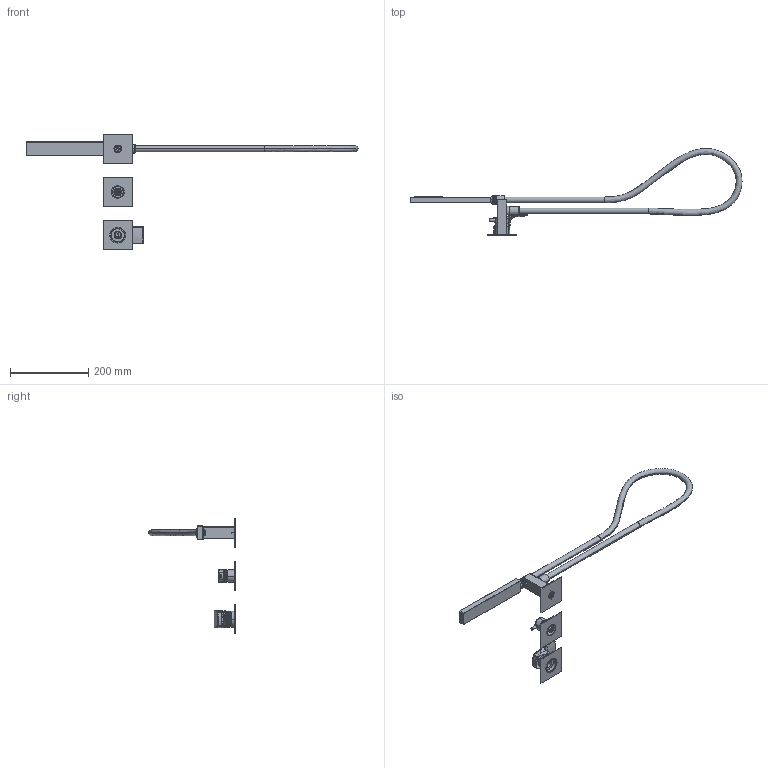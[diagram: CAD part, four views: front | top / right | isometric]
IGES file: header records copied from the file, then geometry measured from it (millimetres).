
Start section:  PTC IGES file: 3d_sw0002.igs
Global section: file name: 3d_sw0002.igs; native system: Creo Parametric by PTC Inc.; preprocessor: 2022014; author: volponeff; organization: Unknown; date: 20240930.115559; units: millimetre
Bounding box: 846.21 x 221.15 x 295 mm (x, y, z)
Surface area: 214083 mm2 (no closed solid volume)
Topology: 0 solids, 0 shells, 1893 faces, 9446 edges, 9420 vertices
Faces by surface type: revolution 1247, bspline 646
